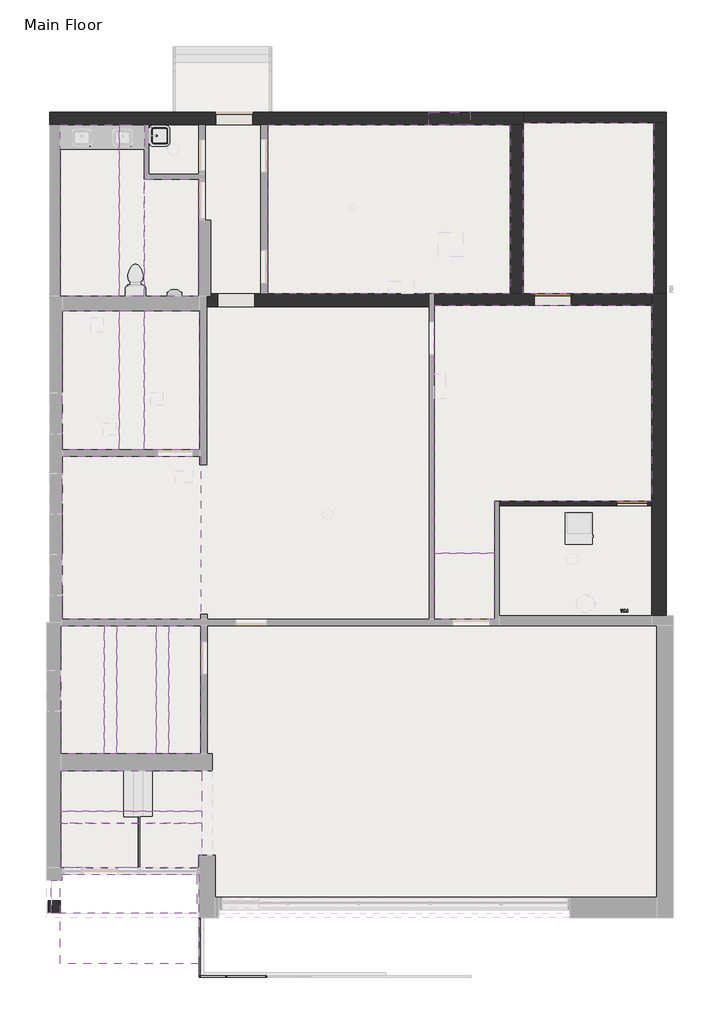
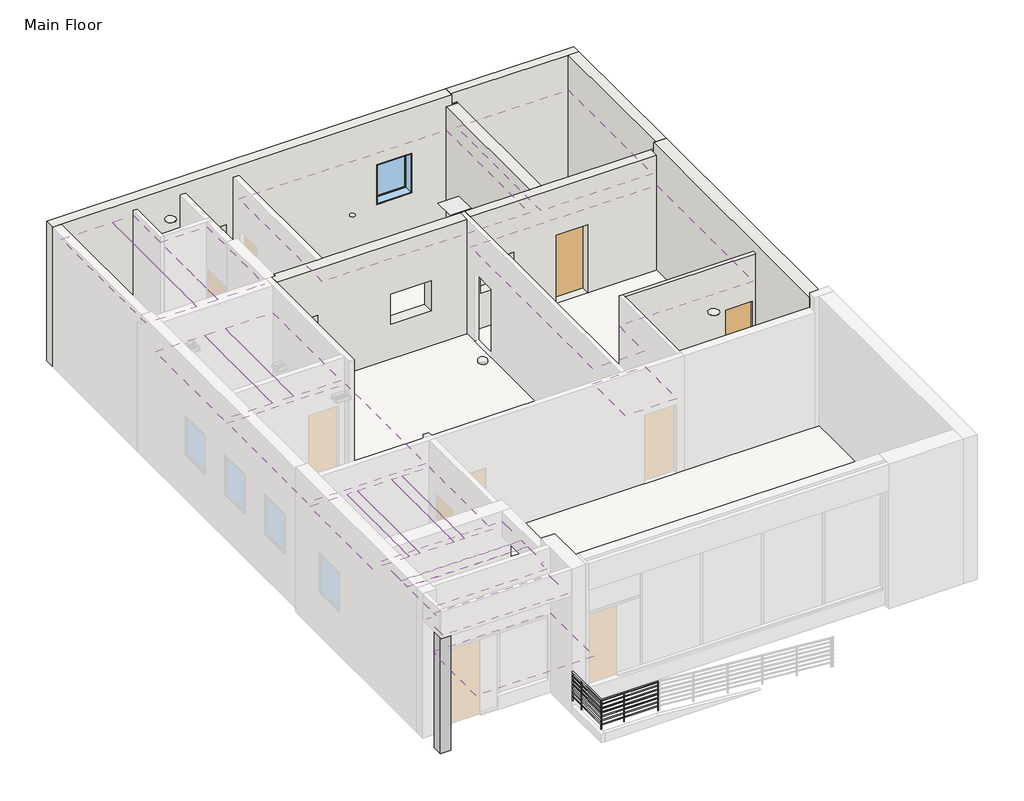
# One storey, part 2 of 4: 19 coverings, 8 walls, 3 slabs, 2 doors, 2 roofs, 1 column, 1 railing, 1 window.
"""IFC4 building model written with IfcOpenShell, lengths in millimetres."""

from ifc_helpers import new_model, si_unit, point, frame, frame_2d, origin, place, context, project, spatial, polyline, circle_curve, ellipse_curve, trimmed, segment, composite_curve, outline, extrude, faceted_brep, transform, mapped, element, save
from ifc_brep_helpers import plane_surface, cylinder_surface, advanced_brep
from components import rectangular_column_3d_family8_6da2cb89, door_5feb2371, door_12e38b37, window_879c5c3a

model = new_model("IFC4")

# Units and contexts
model_context = context("Model", 3, world=origin())
ifc_project = project(units=[si_unit("LENGTHUNIT", "METRE", prefix="MILLI")], contexts=[model_context])

# Site, building, storey
site = spatial("IfcSite", under=ifc_project)
building = spatial("IfcBuilding", under=site)
storey = spatial("IfcBuildingStorey", under=building, Name="Main Floor", Elevation=0.0)

# Column
placement = place(None, origin())
rectangular_column_3d_family8_shape = rectangular_column_3d_family8_6da2cb89(model_context)
element("IfcColumn", 1, ObjectType="Rectangular Column 3D : Family8", at=placement, inside=storey, context=model_context, shape_type="MappedRepresentation", body=[
    mapped(rectangular_column_3d_family8_shape, transform((-5720.4870003, -9593.6328667, 0.0), x_axis=(1.0, 0.0, 0.0), y_axis=(0.0, 1.0, 0.0), z_axis=(0.0, 0.0, 1.0))),
])

# Coverings
element("IfcCovering", 2, ObjectType="600 x 1200mm grid", at=placement, inside=storey, context=model_context, shape_type="SweptSolid", body=[
    extrude(outline(polyline([(-3345.5870003, 1861.7671333), (-3345.5870003, 5297.1171333), (-1967.6370003, 5297.1171333), (-1967.6370003, 1861.7671333), (-3345.5870003, 1861.7671333)]), holes=[polyline([(-3167.7870003, 2979.3671333), (-2901.0870003, 2979.3671333), (-2901.0870003, 3246.0671333), (-3167.7870003, 3246.0671333), (-3167.7870003, 2979.3671333)])]), frame((0.0, 0.0, 3149.6), z_axis=(0.0, 0.0, 1.0), x_axis=(1.0, 0.0, 0.0)), (0.0, 0.0, 1.0), 51.990625),
])
element("IfcCovering", 3, ObjectType="600 x 1200mm grid", at=placement, inside=storey, context=model_context, shape_type="SweptSolid", body=[
    extrude(outline(polyline([(-291.2370003, 9900.8671333), (5703.1629997, 9900.8671333), (5703.1629997, 5722.5671333), (-291.2370003, 5722.5671333), (-291.2370003, 6751.2671333), (-291.2370003, 9900.8671333)]), holes=[polyline([(3296.5129997, 6004.4302864), (2725.0129997, 6004.4302864), (2725.0129997, 5737.7302864), (3296.5129997, 5737.7302864), (3296.5129997, 6004.4302864)])]), frame((0.0, 0.0, 3251.2), z_axis=(0.0, 0.0, 1.0), x_axis=(1.0, 0.0, 0.0)), (0.0, 0.0, 1.0), 51.990625),
])
element("IfcCovering", 4, ObjectType="600 x 1200mm grid", at=placement, inside=storey, context=model_context, shape_type="SweptSolid", body=[
    extrude(outline(polyline([(9259.1629997, 9951.6671333), (9259.1629997, 5722.5671333), (6033.3629997, 5722.5671333), (6033.3629997, 9951.6671333), (9259.1629997, 9951.6671333)])), frame((0.0, 0.0, 3200.4), z_axis=(0.0, 0.0, 1.0), x_axis=(1.0, 0.0, 0.0)), (0.0, 0.0, 1.0), 51.990625),
])
element("IfcCovering", 5, ObjectType="600 x 1200mm grid", at=placement, inside=storey, context=model_context, shape_type="SweptSolid", body=[
    extrude(outline(polyline([(-3345.5870003, 8554.6671333), (-1999.3870003, 8554.6671333), (-1999.3870003, 5652.7171333), (-2236.2420003, 5652.7171333), (-3345.5870003, 5652.7171333), (-3345.5870003, 8554.6671333)])), frame((0.0, 0.0, 3810.0), z_axis=(0.0, 0.0, 1.0), x_axis=(1.0, 0.0, 0.0)), (0.0, 0.0, 1.0), 51.990625),
])
element("IfcCovering", 6, ObjectType="600 x 1200mm grid", at=placement, inside=storey, context=model_context, shape_type="SweptSolid", body=[
    extrude(outline(polyline([(-2735.9870003, -2494.3328667), (-2735.9870003, -5650.2828667), (-3040.7870003, -5650.2828667), (-3040.7870003, -2494.3328667), (-2735.9870003, -2494.3328667)])), frame((0.0, 0.0, 3149.6), z_axis=(0.0, 0.0, 1.0), x_axis=(1.0, 0.0, 0.0)), (0.0, 0.0, 1.0), 51.990625),
])
element("IfcCovering", 7, ObjectType="600 x 1200mm grid", at=placement, inside=storey, context=model_context, shape_type="SweptSolid", body=[
    extrude(outline(polyline([(-3955.1870003, 5652.7171333), (-3955.1870003, 9900.8671333), (-3345.5870003, 9900.8671333), (-3345.5870003, 5652.7171333), (-3955.1870003, 5652.7171333)])), frame((0.0, 0.0, 3810.0), z_axis=(0.0, 0.0, 1.0), x_axis=(1.0, 0.0, 0.0)), (0.0, 0.0, 1.0), 51.990625),
])
element("IfcCovering", 8, ObjectType="600 x 1200mm grid", at=placement, inside=storey, context=model_context, shape_type="SweptSolid", body=[
    extrude(outline(polyline([(-5422.0370003, 9900.8671333), (-3955.1870003, 9900.8671333), (-3955.1870003, 5652.7171333), (-4312.6920003, 5652.7171333), (-5422.0370003, 5652.7171333), (-5422.0370003, 9900.8671333)])), frame((0.0, 0.0, 3810.0), z_axis=(0.0, 0.0, 1.0), x_axis=(1.0, 0.0, 0.0)), (0.0, 0.0, 1.0), 51.990625),
])
element("IfcCovering", 9, ObjectType="600 x 1200mm grid", at=placement, inside=storey, context=model_context, shape_type="SweptSolid", body=[
    extrude(outline(polyline([(-3955.1870003, 1861.7671333), (-3955.1870003, 5297.1171333), (-3345.5870003, 5297.1171333), (-3345.5870003, 1861.7671333), (-3955.1870003, 1861.7671333)])), frame((0.0, 0.0, 3149.6), z_axis=(0.0, 0.0, 1.0), x_axis=(1.0, 0.0, 0.0)), (0.0, 0.0, 1.0), 51.990625),
])
element("IfcCovering", 10, ObjectType="600 x 1200mm grid", at=placement, inside=storey, context=model_context, shape_type="SweptSolid", body=[
    extrude(outline(polyline([(-3955.1870003, 1861.7671333), (-5371.2370003, 1861.7671333), (-5371.2370003, 5297.1171333), (-3955.1870003, 5297.1171333), (-3955.1870003, 1861.7671333)]), holes=[polyline([(-4640.9870003, 5100.2671333), (-4640.9870003, 4782.7671333), (-4374.2870003, 4782.7671333), (-4374.2870003, 5100.2671333), (-4640.9870003, 5100.2671333)]), polyline([(-4069.4870003, 2509.4671333), (-4336.1870003, 2509.4671333), (-4336.1870003, 2242.7671333), (-4069.4870003, 2242.7671333), (-4069.4870003, 2509.4671333)])]), frame((0.0, 0.0, 3149.6), z_axis=(0.0, 0.0, 1.0), x_axis=(1.0, 0.0, 0.0)), (0.0, 0.0, 1.0), 51.990625),
])
element("IfcCovering", 11, ObjectType="600 x 1200mm grid", at=placement, inside=storey, context=model_context, shape_type="SweptSolid", body=[
    extrude(outline(polyline([(-1948.5870003, -2494.3328667), (-1948.5870003, -5650.2828667), (-2735.9870003, -5650.2828667), (-2735.9870003, -2494.3328667), (-1948.5870003, -2494.3328667)])), frame((0.0, 0.0, 3149.6), z_axis=(0.0, 0.0, 1.0), x_axis=(1.0, 0.0, 0.0)), (0.0, 0.0, 1.0), 51.990625),
])
element("IfcCovering", 12, ObjectType="600 x 1200mm grid", at=placement, inside=storey, context=model_context, shape_type="SweptSolid", body=[
    extrude(outline(polyline([(-3040.7870003, -2494.3328667), (-3040.7870003, -5650.2828667), (-4024.8821003, -5650.2828667), (-4024.8821003, -2494.3328667), (-3040.7870003, -2494.3328667)])), frame((0.0, 0.0, 3149.6), z_axis=(0.0, 0.0, 1.0), x_axis=(1.0, 0.0, 0.0)), (0.0, 0.0, 1.0), 51.990625),
])
element("IfcCovering", 13, ObjectType="600 x 1200mm grid", at=placement, inside=storey, context=model_context, shape_type="SweptSolid", body=[
    extrude(outline(polyline([(-4329.6821003, -2494.3328667), (-4024.8821003, -2494.3328667), (-4024.8821003, -5650.2828667), (-4329.6821003, -5650.2828667), (-4329.6821003, -2494.3328667)])), frame((0.0, 0.0, 3149.6), z_axis=(0.0, 0.0, 1.0), x_axis=(1.0, 0.0, 0.0)), (0.0, 0.0, 1.0), 51.990625),
])
element("IfcCovering", 14, ObjectType="600 x 1200mm grid", at=placement, inside=storey, context=model_context, shape_type="SweptSolid", body=[
    extrude(outline(polyline([(-4329.6821003, -2494.3328667), (-4329.6821003, -5650.2828667), (-5402.8321003, -5650.2828667), (-5402.8321003, -2494.3328667), (-4329.6821003, -2494.3328667)])), frame((0.0, 0.0, 3149.6), z_axis=(0.0, 0.0, 1.0), x_axis=(1.0, 0.0, 0.0)), (0.0, 0.0, 1.0), 51.990625),
])
element("IfcCovering", 15, ObjectType="600 x 600mm grid", at=placement, inside=storey, context=model_context, shape_type="SweptSolid", body=[
    extrude(outline(polyline([(9208.3629997, 585.4171333), (5322.1629997, 585.4171333), (5322.1629997, -703.6328667), (3823.5629997, -703.6328667), (3823.5629997, 5430.4671333), (9208.3629997, 5430.4671333), (9208.3629997, 585.4171333)]), holes=[polyline([(3842.6129997, 3715.9671333), (3842.6129997, 3144.4671333), (4083.9129997, 3144.4671333), (4083.9129997, 3715.9671333), (3842.6129997, 3715.9671333)])]), frame((0.0, 0.0, 3048.0), z_axis=(0.0, 0.0, 1.0), x_axis=(1.0, 0.0, 0.0)), (0.0, 0.0, 1.0), 51.990625),
])
element("IfcCovering", 16, ObjectType="600 x 600mm grid", at=placement, inside=storey, context=model_context, shape_type="SweptSolid", body=[
    extrude(outline(polyline([(-1946.7727003, 1696.6671333), (-1946.7727003, -2329.2328667), (-5371.2370003, -2329.2328667), (-5371.2370003, 1696.6671333), (-1946.7727003, 1696.6671333)]), holes=[polyline([(-2558.1870003, 1328.3671333), (-2558.1870003, 1061.6671333), (-2164.4870003, 1061.6671333), (-2164.4870003, 1328.3671333), (-2558.1870003, 1328.3671333)])]), frame((0.0, 0.0, 3149.6), z_axis=(0.0, 0.0, 1.0), x_axis=(1.0, 0.0, 0.0)), (0.0, 0.0, 1.0), 51.990625),
])
element("IfcCovering", 17, ObjectType="600 x 600mm grid", at=placement, inside=storey, context=model_context, shape_type="SweptSolid", body=[
    extrude(outline(polyline([(-1916.8370003, -7377.4828667), (-1916.8370003, -8164.8828667), (-1993.0370003, -8164.8828667), (-1993.0370003, -8476.0328667), (-5371.2370003, -8476.0328667), (-5402.8321003, -8476.0328667), (-5402.8321003, -7377.4828667), (-1916.8370003, -7377.4828667)])), frame((0.0, 0.0, 3657.6), z_axis=(0.0, 0.0, 1.0), x_axis=(1.0, 0.0, 0.0)), (0.0, 0.0, 1.0), 51.990625),
])
element("IfcCovering", 18, ObjectType="600 x 600mm grid", at=placement, inside=storey, context=model_context, shape_type="SweptSolid", body=[
    extrude(outline(polyline([(5322.1629997, -703.6328667), (5322.1629997, -2329.2328667), (3823.5629997, -2329.2328667), (3823.5629997, -703.6328667), (5322.1629997, -703.6328667)])), frame((0.0, 0.0, 2590.8), z_axis=(0.0, 0.0, 1.0), x_axis=(1.0, 0.0, 0.0)), (0.0, 0.0, 1.0), 51.990625),
])
element("IfcCovering", 19, ObjectType="600 x 600mm grid", at=placement, inside=storey, context=model_context, shape_type="SweptSolid", body=[
    extrude(outline(polyline([(-1916.8370003, -7072.6828667), (-5402.8321003, -7072.6828667), (-5402.8321003, -6082.0828667), (-1916.8370003, -6082.0828667), (-1916.8370003, -7072.6828667)])), frame((0.0, 0.0, 3657.6), z_axis=(0.0, 0.0, 1.0), x_axis=(1.0, 0.0, 0.0)), (0.0, 0.0, 1.0), 51.990625),
])
element("IfcCovering", 20, ObjectType="600 x 600mm grid", at=placement, inside=storey, context=model_context, shape_type="SweptSolid", body=[
    extrude(outline(polyline([(-1916.8370003, -7072.6828667), (-1916.8370003, -7377.4828667), (-5371.2370003, -7377.4828667), (-5402.8321003, -7377.4828667), (-5402.8321003, -7072.6828667), (-1916.8370003, -7072.6828667)])), frame((0.0, 0.0, 3657.6), z_axis=(0.0, 0.0, 1.0), x_axis=(1.0, 0.0, 0.0)), (0.0, 0.0, 1.0), 51.990625),
])

# Doors
door_shape = door_5feb2371(model_context)
element("IfcDoor", 21, ObjectType="Planitar - Single Door_Flush Panel : 2'-6\" x 6'-8\"", at=placement, inside=storey, context=model_context, shape_type="MappedRepresentation", body=[
    mapped(door_shape, transform((8725.7629997, 528.2671333, 457.2), x_axis=(1.0, 0.0, 0.0), y_axis=(0.0, 1.0, 0.0), z_axis=(0.0, 0.0, 1.0))),
])
door_2_shape = door_12e38b37(model_context)
element("IfcDoor", 22, ObjectType="Planitar - Single Door_Flush Panel : 3'-0\" x 6'-8\"", at=placement, inside=storey, context=model_context, shape_type="MappedRepresentation", body=[
    mapped(door_2_shape, transform((6757.2629997, 5576.5171333, 457.2), x_axis=(-1.0, 0.0, 0.0), y_axis=(0.0, -1.0, 0.0), z_axis=(0.0, 0.0, 1.0))),
])

# Railing
element("IfcRailing", 23, ObjectType="900mm Pipe", at=placement, inside=storey, context=model_context, shape_type="SolidModel", body=[
    advanced_brep(
    [(-316.6370003, -11142.0828667, 1275.8166667), (-316.6370003, -11182.0828667, 1275.8166667), (-1947.6370003, -11142.0828667, 1275.8166667), (-1987.6370003, -11182.0828667, 1275.8166667), (-1947.6370003, -9714.2828667, 1275.8166667), (-1987.6370003, -9714.2828667, 1275.8166667)],
    [
        (0, 1, circle_curve(frame((-316.6370003, -11162.0828667, 1275.8166667), z_axis=(1.0, 0.0, 0.0), x_axis=(0.0, -1.0, 0.0)), 20.0)),
        (1, 0, circle_curve(frame((-316.6370003, -11162.0828667, 1275.8166667), z_axis=(1.0, 0.0, 0.0), x_axis=(0.0, -1.0, 0.0)), 20.0)),
        (0, 2),
        (2, 3, ellipse_curve(frame((-1967.6370003, -11162.0828667, 1275.8166667), z_axis=(0.7071067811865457, -0.7071067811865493, 0.0), x_axis=(0.7071067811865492, 0.7071067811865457, 0.0)), 28.2842712, 20.0)),
        (3, 1),
        (3, 2, ellipse_curve(frame((-1967.6370003, -11162.0828667, 1275.8166667), z_axis=(0.7071067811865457, -0.7071067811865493, 0.0), x_axis=(0.7071067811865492, 0.7071067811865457, 0.0)), 28.2842712, 20.0)),
        (4, 5, circle_curve(frame((-1967.6370003, -9714.2828667, 1275.8166667), z_axis=(0.0, 1.0, 0.0), x_axis=(-1.0, 0.0, 0.0)), 20.0)),
        (5, 4, circle_curve(frame((-1967.6370003, -9714.2828667, 1275.8166667), z_axis=(0.0, 1.0, 0.0), x_axis=(-1.0, 0.0, 0.0)), 20.0)),
        (2, 4),
        (5, 3),
    ],
    [
        plane_surface(frame((-316.6370003, -11162.0828667, 1295.8166667), z_axis=(1.0, 0.0, 0.0), x_axis=(0.0, -1.0, 0.0))),
        cylinder_surface(frame((-316.6370003, -11162.0828667, 1275.8166667), z_axis=(1.0, 0.0, 0.0), x_axis=(0.0, -1.0, 0.0)), 20.0),
        plane_surface(frame((-1967.6370003, -9714.2828667, 1295.8166667), z_axis=(0.0, 1.0, 0.0), x_axis=(0.0, 0.0, 1.0))),
        cylinder_surface(frame((-1967.6370003, -11162.0828667, 1275.8166667), z_axis=(0.0, -1.0, 0.0), x_axis=(-1.0, 0.0, 0.0)), 20.0),
    ],
    [
        (0, [[1, 2]]),
        (1, [[-1, 3, 4, 5]]),
        (1, [[-2, -5, 6, -3]]),
        (2, [[7, 8]]),
        (3, [[-4, 9, -8, 10]]),
        (3, [[-6, -10, -7, -9]]),
    ],
),
    advanced_brep(
    [(-316.6370003, -11177.0828667, 1155.8166667), (-316.6370003, -11147.0828667, 1155.8166667), (-1982.6370003, -11177.0828667, 1155.8166667), (-1952.6370003, -11147.0828667, 1155.8166667), (-1982.6370003, -9714.2828667, 1155.8166667), (-1952.6370003, -9714.2828667, 1155.8166667)],
    [
        (0, 1, circle_curve(frame((-316.6370003, -11162.0828667, 1155.8166667), z_axis=(1.0, 0.0, 0.0), x_axis=(0.0, 1.0, 0.0)), 15.0)),
        (1, 0, circle_curve(frame((-316.6370003, -11162.0828667, 1155.8166667), z_axis=(1.0, 0.0, 0.0), x_axis=(0.0, 1.0, 0.0)), 15.0)),
        (0, 2),
        (2, 3, ellipse_curve(frame((-1967.6370003, -11162.0828667, 1155.8166667), z_axis=(0.7071067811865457, -0.7071067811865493, 0.0), x_axis=(0.7071067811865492, 0.7071067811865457, 0.0)), 21.2132034, 15.0)),
        (3, 1),
        (3, 2, ellipse_curve(frame((-1967.6370003, -11162.0828667, 1155.8166667), z_axis=(0.7071067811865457, -0.7071067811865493, 0.0), x_axis=(0.7071067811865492, 0.7071067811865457, 0.0)), 21.2132034, 15.0)),
        (4, 5, circle_curve(frame((-1967.6370003, -9714.2828667, 1155.8166667), z_axis=(0.0, 1.0, 0.0), x_axis=(1.0, 0.0, 0.0)), 15.0)),
        (5, 4, circle_curve(frame((-1967.6370003, -9714.2828667, 1155.8166667), z_axis=(0.0, 1.0, 0.0), x_axis=(1.0, 0.0, 0.0)), 15.0)),
        (2, 4),
        (5, 3),
    ],
    [
        plane_surface(frame((-316.6370003, -11162.0828667, 1170.8166667), z_axis=(1.0, 0.0, 0.0), x_axis=(0.0, -1.0, 0.0))),
        cylinder_surface(frame((-316.6370003, -11162.0828667, 1155.8166667), z_axis=(1.0, 0.0, 0.0), x_axis=(0.0, 1.0, 0.0)), 15.0),
        plane_surface(frame((-1967.6370003, -9714.2828667, 1170.8166667), z_axis=(0.0, 1.0, 0.0), x_axis=(0.0, 0.0, 1.0))),
        cylinder_surface(frame((-1967.6370003, -11162.0828667, 1155.8166667), z_axis=(0.0, -1.0, 0.0), x_axis=(1.0, 0.0, 0.0)), 15.0),
    ],
    [
        (0, [[1, 2]]),
        (1, [[-1, 3, 4, 5]]),
        (1, [[-2, -5, 6, -3]]),
        (2, [[7, 8]]),
        (3, [[-4, 9, -8, 10]]),
        (3, [[-6, -10, -7, -9]]),
    ],
),
    advanced_brep(
    [(-316.6370003, -11177.0828667, 1030.8166667), (-316.6370003, -11147.0828667, 1030.8166667), (-1982.6370003, -11177.0828667, 1030.8166667), (-1952.6370003, -11147.0828667, 1030.8166667), (-1982.6370003, -9714.2828667, 1030.8166667), (-1952.6370003, -9714.2828667, 1030.8166667)],
    [
        (0, 1, circle_curve(frame((-316.6370003, -11162.0828667, 1030.8166667), z_axis=(1.0, 0.0, 0.0), x_axis=(0.0, 1.0, 0.0)), 15.0)),
        (1, 0, circle_curve(frame((-316.6370003, -11162.0828667, 1030.8166667), z_axis=(1.0, 0.0, 0.0), x_axis=(0.0, 1.0, 0.0)), 15.0)),
        (0, 2),
        (2, 3, ellipse_curve(frame((-1967.6370003, -11162.0828667, 1030.8166667), z_axis=(0.7071067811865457, -0.7071067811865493, 0.0), x_axis=(0.7071067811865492, 0.7071067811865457, 0.0)), 21.2132034, 15.0)),
        (3, 1),
        (3, 2, ellipse_curve(frame((-1967.6370003, -11162.0828667, 1030.8166667), z_axis=(0.7071067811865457, -0.7071067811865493, 0.0), x_axis=(0.7071067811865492, 0.7071067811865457, 0.0)), 21.2132034, 15.0)),
        (4, 5, circle_curve(frame((-1967.6370003, -9714.2828667, 1030.8166667), z_axis=(0.0, 1.0, 0.0), x_axis=(1.0, 0.0, 0.0)), 15.0)),
        (5, 4, circle_curve(frame((-1967.6370003, -9714.2828667, 1030.8166667), z_axis=(0.0, 1.0, 0.0), x_axis=(1.0, 0.0, 0.0)), 15.0)),
        (2, 4),
        (5, 3),
    ],
    [
        plane_surface(frame((-316.6370003, -11162.0828667, 1045.8166667), z_axis=(1.0, 0.0, 0.0), x_axis=(0.0, -1.0, 0.0))),
        cylinder_surface(frame((-316.6370003, -11162.0828667, 1030.8166667), z_axis=(1.0, 0.0, 0.0), x_axis=(0.0, 1.0, 0.0)), 15.0),
        plane_surface(frame((-1967.6370003, -9714.2828667, 1045.8166667), z_axis=(0.0, 1.0, 0.0), x_axis=(0.0, 0.0, 1.0))),
        cylinder_surface(frame((-1967.6370003, -11162.0828667, 1030.8166667), z_axis=(0.0, -1.0, 0.0), x_axis=(1.0, 0.0, 0.0)), 15.0),
    ],
    [
        (0, [[1, 2]]),
        (1, [[-1, 3, 4, 5]]),
        (1, [[-2, -5, 6, -3]]),
        (2, [[7, 8]]),
        (3, [[-4, 9, -8, 10]]),
        (3, [[-6, -10, -7, -9]]),
    ],
),
    advanced_brep(
    [(-316.6370003, -11177.0828667, 905.8166667), (-316.6370003, -11147.0828667, 905.8166667), (-1982.6370003, -11177.0828667, 905.8166667), (-1952.6370003, -11147.0828667, 905.8166667), (-1982.6370003, -9714.2828667, 905.8166667), (-1952.6370003, -9714.2828667, 905.8166667)],
    [
        (0, 1, circle_curve(frame((-316.6370003, -11162.0828667, 905.8166667), z_axis=(1.0, 0.0, 0.0), x_axis=(0.0, 1.0, 0.0)), 15.0)),
        (1, 0, circle_curve(frame((-316.6370003, -11162.0828667, 905.8166667), z_axis=(1.0, 0.0, 0.0), x_axis=(0.0, 1.0, 0.0)), 15.0)),
        (0, 2),
        (2, 3, ellipse_curve(frame((-1967.6370003, -11162.0828667, 905.8166667), z_axis=(0.7071067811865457, -0.7071067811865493, 0.0), x_axis=(0.7071067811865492, 0.7071067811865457, 0.0)), 21.2132034, 15.0)),
        (3, 1),
        (3, 2, ellipse_curve(frame((-1967.6370003, -11162.0828667, 905.8166667), z_axis=(0.7071067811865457, -0.7071067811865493, 0.0), x_axis=(0.7071067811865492, 0.7071067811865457, 0.0)), 21.2132034, 15.0)),
        (4, 5, circle_curve(frame((-1967.6370003, -9714.2828667, 905.8166667), z_axis=(0.0, 1.0, 0.0), x_axis=(1.0, 0.0, 0.0)), 15.0)),
        (5, 4, circle_curve(frame((-1967.6370003, -9714.2828667, 905.8166667), z_axis=(0.0, 1.0, 0.0), x_axis=(1.0, 0.0, 0.0)), 15.0)),
        (2, 4),
        (5, 3),
    ],
    [
        plane_surface(frame((-316.6370003, -11162.0828667, 920.8166667), z_axis=(1.0, 0.0, 0.0), x_axis=(0.0, -1.0, 0.0))),
        cylinder_surface(frame((-316.6370003, -11162.0828667, 905.8166667), z_axis=(1.0, 0.0, 0.0), x_axis=(0.0, 1.0, 0.0)), 15.0),
        plane_surface(frame((-1967.6370003, -9714.2828667, 920.8166667), z_axis=(0.0, 1.0, 0.0), x_axis=(0.0, 0.0, 1.0))),
        cylinder_surface(frame((-1967.6370003, -11162.0828667, 905.8166667), z_axis=(0.0, -1.0, 0.0), x_axis=(1.0, 0.0, 0.0)), 15.0),
    ],
    [
        (0, [[1, 2]]),
        (1, [[-1, 3, 4, 5]]),
        (1, [[-2, -5, 6, -3]]),
        (2, [[7, 8]]),
        (3, [[-4, 9, -8, 10]]),
        (3, [[-6, -10, -7, -9]]),
    ],
),
    advanced_brep(
    [(-316.6370003, -11177.0828667, 780.8166667), (-316.6370003, -11147.0828667, 780.8166667), (-1982.6370003, -11177.0828667, 780.8166667), (-1952.6370003, -11147.0828667, 780.8166667), (-1982.6370003, -9714.2828667, 780.8166667), (-1952.6370003, -9714.2828667, 780.8166667)],
    [
        (0, 1, circle_curve(frame((-316.6370003, -11162.0828667, 780.8166667), z_axis=(1.0, 0.0, 0.0), x_axis=(0.0, 1.0, 0.0)), 15.0)),
        (1, 0, circle_curve(frame((-316.6370003, -11162.0828667, 780.8166667), z_axis=(1.0, 0.0, 0.0), x_axis=(0.0, 1.0, 0.0)), 15.0)),
        (0, 2),
        (2, 3, ellipse_curve(frame((-1967.6370003, -11162.0828667, 780.8166667), z_axis=(0.7071067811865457, -0.7071067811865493, 0.0), x_axis=(0.7071067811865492, 0.7071067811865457, 0.0)), 21.2132034, 15.0)),
        (3, 1),
        (3, 2, ellipse_curve(frame((-1967.6370003, -11162.0828667, 780.8166667), z_axis=(0.7071067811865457, -0.7071067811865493, 0.0), x_axis=(0.7071067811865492, 0.7071067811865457, 0.0)), 21.2132034, 15.0)),
        (4, 5, circle_curve(frame((-1967.6370003, -9714.2828667, 780.8166667), z_axis=(0.0, 1.0, 0.0), x_axis=(1.0, 0.0, 0.0)), 15.0)),
        (5, 4, circle_curve(frame((-1967.6370003, -9714.2828667, 780.8166667), z_axis=(0.0, 1.0, 0.0), x_axis=(1.0, 0.0, 0.0)), 15.0)),
        (2, 4),
        (5, 3),
    ],
    [
        plane_surface(frame((-316.6370003, -11162.0828667, 795.8166667), z_axis=(1.0, 0.0, 0.0), x_axis=(0.0, -1.0, 0.0))),
        cylinder_surface(frame((-316.6370003, -11162.0828667, 780.8166667), z_axis=(1.0, 0.0, 0.0), x_axis=(0.0, 1.0, 0.0)), 15.0),
        plane_surface(frame((-1967.6370003, -9714.2828667, 795.8166667), z_axis=(0.0, 1.0, 0.0), x_axis=(0.0, 0.0, 1.0))),
        cylinder_surface(frame((-1967.6370003, -11162.0828667, 780.8166667), z_axis=(0.0, -1.0, 0.0), x_axis=(1.0, 0.0, 0.0)), 15.0),
    ],
    [
        (0, [[1, 2]]),
        (1, [[-1, 3, 4, 5]]),
        (1, [[-2, -5, 6, -3]]),
        (2, [[7, 8]]),
        (3, [[-4, 9, -8, 10]]),
        (3, [[-6, -10, -7, -9]]),
    ],
),
    advanced_brep(
    [(-316.6370003, -11177.0828667, 655.8166667), (-316.6370003, -11147.0828667, 655.8166667), (-1982.6370003, -11177.0828667, 655.8166667), (-1952.6370003, -11147.0828667, 655.8166667), (-1982.6370003, -9714.2828667, 655.8166667), (-1952.6370003, -9714.2828667, 655.8166667)],
    [
        (0, 1, circle_curve(frame((-316.6370003, -11162.0828667, 655.8166667), z_axis=(1.0, 0.0, 0.0), x_axis=(0.0, 1.0, 0.0)), 15.0)),
        (1, 0, circle_curve(frame((-316.6370003, -11162.0828667, 655.8166667), z_axis=(1.0, 0.0, 0.0), x_axis=(0.0, 1.0, 0.0)), 15.0)),
        (0, 2),
        (2, 3, ellipse_curve(frame((-1967.6370003, -11162.0828667, 655.8166667), z_axis=(0.7071067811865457, -0.7071067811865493, 0.0), x_axis=(0.7071067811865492, 0.7071067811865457, 0.0)), 21.2132034, 15.0)),
        (3, 1),
        (3, 2, ellipse_curve(frame((-1967.6370003, -11162.0828667, 655.8166667), z_axis=(0.7071067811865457, -0.7071067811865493, 0.0), x_axis=(0.7071067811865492, 0.7071067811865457, 0.0)), 21.2132034, 15.0)),
        (4, 5, circle_curve(frame((-1967.6370003, -9714.2828667, 655.8166667), z_axis=(0.0, 1.0, 0.0), x_axis=(1.0, 0.0, 0.0)), 15.0)),
        (5, 4, circle_curve(frame((-1967.6370003, -9714.2828667, 655.8166667), z_axis=(0.0, 1.0, 0.0), x_axis=(1.0, 0.0, 0.0)), 15.0)),
        (2, 4),
        (5, 3),
    ],
    [
        plane_surface(frame((-316.6370003, -11162.0828667, 670.8166667), z_axis=(1.0, 0.0, 0.0), x_axis=(0.0, -1.0, 0.0))),
        cylinder_surface(frame((-316.6370003, -11162.0828667, 655.8166667), z_axis=(1.0, 0.0, 0.0), x_axis=(0.0, 1.0, 0.0)), 15.0),
        plane_surface(frame((-1967.6370003, -9714.2828667, 670.8166667), z_axis=(0.0, 1.0, 0.0), x_axis=(0.0, 0.0, 1.0))),
        cylinder_surface(frame((-1967.6370003, -11162.0828667, 655.8166667), z_axis=(0.0, -1.0, 0.0), x_axis=(1.0, 0.0, 0.0)), 15.0),
    ],
    [
        (0, [[1, 2]]),
        (1, [[-1, 3, 4, 5]]),
        (1, [[-2, -5, 6, -3]]),
        (2, [[7, 8]]),
        (3, [[-4, 9, -8, 10]]),
        (3, [[-6, -10, -7, -9]]),
    ],
),
    advanced_brep(
    [(-316.6370003, -11177.0828667, 530.8166667), (-316.6370003, -11147.0828667, 530.8166667), (-1982.6370003, -11177.0828667, 530.8166667), (-1952.6370003, -11147.0828667, 530.8166667), (-1982.6370003, -9714.2828667, 530.8166667), (-1952.6370003, -9714.2828667, 530.8166667)],
    [
        (0, 1, circle_curve(frame((-316.6370003, -11162.0828667, 530.8166667), z_axis=(1.0, 0.0, 0.0), x_axis=(0.0, 1.0, 0.0)), 15.0)),
        (1, 0, circle_curve(frame((-316.6370003, -11162.0828667, 530.8166667), z_axis=(1.0, 0.0, 0.0), x_axis=(0.0, 1.0, 0.0)), 15.0)),
        (0, 2),
        (2, 3, ellipse_curve(frame((-1967.6370003, -11162.0828667, 530.8166667), z_axis=(0.7071067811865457, -0.7071067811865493, 0.0), x_axis=(0.7071067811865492, 0.7071067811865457, 0.0)), 21.2132034, 15.0)),
        (3, 1),
        (3, 2, ellipse_curve(frame((-1967.6370003, -11162.0828667, 530.8166667), z_axis=(0.7071067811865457, -0.7071067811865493, 0.0), x_axis=(0.7071067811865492, 0.7071067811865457, 0.0)), 21.2132034, 15.0)),
        (4, 5, circle_curve(frame((-1967.6370003, -9714.2828667, 530.8166667), z_axis=(0.0, 1.0, 0.0), x_axis=(1.0, 0.0, 0.0)), 15.0)),
        (5, 4, circle_curve(frame((-1967.6370003, -9714.2828667, 530.8166667), z_axis=(0.0, 1.0, 0.0), x_axis=(1.0, 0.0, 0.0)), 15.0)),
        (2, 4),
        (5, 3),
    ],
    [
        plane_surface(frame((-316.6370003, -11162.0828667, 545.8166667), z_axis=(1.0, 0.0, 0.0), x_axis=(0.0, -1.0, 0.0))),
        cylinder_surface(frame((-316.6370003, -11162.0828667, 530.8166667), z_axis=(1.0, 0.0, 0.0), x_axis=(0.0, 1.0, 0.0)), 15.0),
        plane_surface(frame((-1967.6370003, -9714.2828667, 545.8166667), z_axis=(0.0, 1.0, 0.0), x_axis=(0.0, 0.0, 1.0))),
        cylinder_surface(frame((-1967.6370003, -11162.0828667, 530.8166667), z_axis=(0.0, -1.0, 0.0), x_axis=(1.0, 0.0, 0.0)), 15.0),
    ],
    [
        (0, [[1, 2]]),
        (1, [[-1, 3, 4, 5]]),
        (1, [[-2, -5, 6, -3]]),
        (2, [[7, 8]]),
        (3, [[-4, 9, -8, 10]]),
        (3, [[-6, -10, -7, -9]]),
    ],
),
    extrude(outline(composite_curve([segment(trimmed(circle_curve(frame_2d((-1967.6370003, -10162.0828667)), 12.5), [point((-1980.1370003, -10162.0828667))], [point((-1955.1370003, -10162.0828667))], False, "CARTESIAN"), True, "CONTINUOUS"), segment(trimmed(circle_curve(frame_2d((-1967.6370003, -10162.0828667)), 12.5), [point((-1955.1370003, -10162.0828667))], [point((-1980.1370003, -10162.0828667))], False, "CARTESIAN"), True, "CONTINUOUS")], self_intersect=False)), frame((0.0, 0.0, 395.8166667), z_axis=(0.0, 0.0, 1.0), x_axis=(1.0, 0.0, 0.0)), (0.0, 0.0, 1.0), 860.0),
    extrude(outline(composite_curve([segment(trimmed(circle_curve(frame_2d((-1316.6370003, -11162.0828667)), 12.5), [point((-1316.6370003, -11174.5828667))], [point((-1316.6370003, -11149.5828667))], False, "CARTESIAN"), True, "CONTINUOUS"), segment(trimmed(circle_curve(frame_2d((-1316.6370003, -11162.0828667)), 12.5), [point((-1316.6370003, -11149.5828667))], [point((-1316.6370003, -11174.5828667))], False, "CARTESIAN"), True, "CONTINUOUS")], self_intersect=False)), frame((0.0, 0.0, 395.8166667), z_axis=(0.0, 0.0, 1.0), x_axis=(1.0, 0.0, 0.0)), (0.0, 0.0, 1.0), 860.0),
    extrude(outline(composite_curve([segment(trimmed(circle_curve(frame_2d((-1967.6370003, -11162.0828667)), 12.5), [point((-1967.6370003, -11174.5828667))], [point((-1967.6370003, -11149.5828667))], False, "CARTESIAN"), True, "CONTINUOUS"), segment(trimmed(circle_curve(frame_2d((-1967.6370003, -11162.0828667)), 12.5), [point((-1967.6370003, -11149.5828667))], [point((-1967.6370003, -11174.5828667))], False, "CARTESIAN"), True, "CONTINUOUS")], self_intersect=False)), frame((0.0, 0.0, 395.8166667), z_axis=(0.0, 0.0, 1.0), x_axis=(1.0, 0.0, 0.0)), (0.0, 0.0, 1.0), 860.0),
    extrude(outline(composite_curve([segment(trimmed(circle_curve(frame_2d((-1967.6370003, -9726.7828667)), 12.5), [point((-1980.1370003, -9726.7828667))], [point((-1955.1370003, -9726.7828667))], False, "CARTESIAN"), True, "CONTINUOUS"), segment(trimmed(circle_curve(frame_2d((-1967.6370003, -9726.7828667)), 12.5), [point((-1955.1370003, -9726.7828667))], [point((-1980.1370003, -9726.7828667))], False, "CARTESIAN"), True, "CONTINUOUS")], self_intersect=False)), frame((0.0, 0.0, 395.8166667), z_axis=(0.0, 0.0, 1.0), x_axis=(1.0, 0.0, 0.0)), (0.0, 0.0, 1.0), 860.0),
    extrude(outline(composite_curve([segment(trimmed(circle_curve(frame_2d((-329.1370003, -11162.0828667)), 12.5), [point((-329.1370003, -11174.5828667))], [point((-329.1370003, -11149.5828667))], False, "CARTESIAN"), True, "CONTINUOUS"), segment(trimmed(circle_curve(frame_2d((-329.1370003, -11162.0828667)), 12.5), [point((-329.1370003, -11149.5828667))], [point((-329.1370003, -11174.5828667))], False, "CARTESIAN"), True, "CONTINUOUS")], self_intersect=False)), frame((0.0, 0.0, 395.8166667), z_axis=(0.0, 0.0, 1.0), x_axis=(1.0, 0.0, 0.0)), (0.0, 0.0, 1.0), 860.0),
])

# Roofs
element("IfcRoof", 24, ObjectType="Wood Rafter 184mm - Asphalt Shingles", at=placement, inside=storey, context=model_context, shape_type="SweptSolid", body=[
    extrude(outline(polyline([(-5371.2370003, -8641.1328667), (-1993.0370003, -8641.1328667), (-1993.0370003, -10850.9328667), (-5415.6870003, -10850.9328667), (-5415.6870003, -8780.8328667), (-5371.2370003, -8780.8328667), (-5371.2370003, -8641.1328667)])), frame((0.0, 0.0, 2438.4), z_axis=(0.0, 0.0, 1.0), x_axis=(1.0, 0.0, 0.0)), (0.0, 0.0, 1.0), 165.1),
])
element("IfcRoof", 25, ObjectType="Wood Rafter 184mm - Asphalt Shingles", at=placement, inside=storey, context=model_context, shape_type="SweptSolid", body=[
    extrude(outline(polyline([(-5371.2370003, -8641.1328667), (-2043.8370003, -8641.1328667), (-2043.8370003, -9599.9828667), (-5644.1321003, -9599.9828667), (-5644.1321003, -8780.8328667), (-5371.2370003, -8780.8328667), (-5371.2370003, -8641.1328667)])), frame((0.0, 0.0, 3606.8), z_axis=(0.0, 0.0, 1.0), x_axis=(1.0, 0.0, 0.0)), (0.0, 0.0, 1.0), 165.1),
])

# Slabs
element("IfcSlab", 26, ObjectType="Ledge - 2\"", at=placement, inside=storey, context=model_context, shape_type="SweptSolid", body=[
    extrude(outline(polyline([(-1662.8370003, -6082.0828667), (-1662.8370003, -8476.0328667), (-5402.8321003, -8476.0328667), (-5402.8321003, -6082.0828667), (-1662.8370003, -6082.0828667)])), frame((0.0, 0.0, -50.8), z_axis=(0.0, 0.0, 1.0), x_axis=(1.0, 0.0, 0.0)), (0.0, 0.0, 1.0), 50.8),
])
element("IfcSlab", 27, ObjectType="Ledge - 2\"", at=placement, inside=storey, context=model_context, shape_type="SweptSolid", body=[
    extrude(outline(polyline([(-1586.6370003, -8476.0328667), (-3491.6370003, -8476.0328667), (-3491.6370003, -7211.1128667), (-3131.0760628, -7211.1128667), (-3131.0760628, -6082.0828667), (-1662.8370003, -6082.0828667), (-1662.8370003, -5650.2828667), (-5402.8321003, -5650.2828667), (-5402.8321003, -2494.3328667), (-5365.0419003, -2494.3328667), (-5365.0419003, 5652.7171333), (-5422.0370003, 5652.7171333), (-5422.0370003, 9900.8671333), (6033.3629997, 9900.8671333), (6033.3629997, 9951.6671333), (9259.1629997, 9951.6671333), (9259.1629997, 5722.5671333), (9208.3629997, 5722.5671333), (9208.3629997, -2494.3328667), (9333.0001997, -2494.3328667), (9333.0001997, -9206.2828667), (-1586.6370003, -9206.2828667), (-1586.6370003, -8476.0328667)])), frame((0.0, 0.0, 406.4), z_axis=(0.0, 0.0, 1.0), x_axis=(1.0, 0.0, 0.0)), (0.0, 0.0, 1.0), 50.8),
])
element("IfcSlab", 28, ObjectType="Ledge - 2\"", at=placement, inside=storey, context=model_context, shape_type="SweptSolid", body=[
    extrude(outline(polyline([(-5422.0370003, 9900.8671333), (6033.3629997, 9900.8671333), (6033.3629997, 9951.6671333), (9259.1629997, 9951.6671333), (9259.1629997, 5722.5671333), (9208.3629997, 5722.5671333), (9208.3629997, -2494.3328667), (9333.0001997, -2494.3328667), (9333.0001997, -9206.2828667), (-1586.6370003, -9206.2828667), (-1586.6370003, -8164.8828667), (-1662.8370003, -8164.8828667), (-1662.8370003, -5650.2828667), (-5402.8321003, -5650.2828667), (-5402.8321003, -2494.3328667), (-5371.2370003, -2494.3328667), (-5371.2370003, 5652.7171333), (-5422.0370003, 5652.7171333), (-5422.0370003, 9900.8671333)])), frame((0.0, 0.0, -50.8), z_axis=(0.0, 0.0, 1.0), x_axis=(1.0, 0.0, 0.0)), (0.0, 0.0, 1.0), 50.8),
])

# Walls
element("IfcWall", 29, ObjectType="Planitar - Generic 1' - 0\"", at=placement, inside=storey, context=model_context, shape_type="Brep", body=[
    faceted_brep([(-5676.0370003, 9900.8671333, 0.0), (-5422.0370003, 9900.8671333, 0.0), (-3345.5870003, 9900.8671333, 0.0), (-3231.2870003, 9900.8671333, 0.0), (-1999.3870003, 9900.8671333, 0.0), (-1834.2870003, 9900.8671333, 0.0), (-456.3370003, 9900.8671333, 0.0), (-291.2370003, 9900.8671333, 0.0), (5703.1629997, 9900.8671333, 0.0), (6033.3629997, 9900.8671333, 0.0), (6033.3629997, 9900.8671333, 3962.4), (5868.2629997, 9900.8671333, 3962.4), (5868.2629997, 9900.8671333, 4267.2), (-5422.0370003, 9900.8671333, 4267.2), (-5676.0370003, 9900.8671333, 4267.2), (-1577.4120003, 9900.8671333, 457.2), (-1577.4120003, 9900.8671333, 2590.8), (-662.4120003, 9900.8671333, 2590.8), (-662.4120003, 9900.8671333, 457.2), (3696.5629997, 9900.8671333, 1676.4), (3696.5629997, 9900.8671333, 2895.6), (4712.5629997, 9900.8671333, 2895.6), (4712.5629997, 9900.8671333, 1676.4), (-5676.0370003, 10205.6671333, 0.0), (-5676.0370003, 10205.6671333, 4267.2), (5868.2629997, 10205.6671333, 4267.2), (5868.2629997, 10205.6671333, 3962.4), (6033.3629997, 10205.6671333, 3962.4), (6033.3629997, 10205.6671333, 0.0), (-1577.4120003, 10205.6671333, 457.2), (-662.4120003, 10205.6671333, 457.2), (-662.4120003, 10205.6671333, 2590.8), (-1577.4120003, 10205.6671333, 2590.8), (3696.5629997, 10205.6671333, 1676.4), (4712.5629997, 10205.6671333, 1676.4), (4712.5629997, 10205.6671333, 2895.6), (3696.5629997, 10205.6671333, 2895.6), (6033.3629997, 9951.6671333, 0.0), (5868.2629997, 9951.6671333, 4267.2), (5868.2629997, 9951.6671333, 3962.4), (6033.3629997, 9951.6671333, 3962.4)], [[[0, 1, 2, 3, 4, 5, 6, 7, 8, 9, 10, 11, 12, 13, 14], [15, 16, 17, 18], [19, 20, 21, 22]], [[23, 24, 25, 26, 27, 28], [29, 30, 31, 32], [33, 34, 35, 36]], [[9, 8, 7, 6, 5, 4, 3, 2, 1, 0, 23, 28, 37]], [[14, 13, 12, 38, 25, 24]], [[0, 14, 24, 23]], [[12, 11, 39, 26, 25, 38]], [[26, 39, 11, 10, 40, 27]], [[10, 9, 37, 28, 27, 40]], [[30, 29, 15, 18]], [[31, 30, 18, 17]], [[32, 31, 17, 16]], [[29, 32, 16, 15]], [[20, 19, 33, 36]], [[21, 20, 36, 35]], [[22, 21, 35, 34]], [[19, 22, 34, 33]]]),
])
element("IfcWall", 30, ObjectType="Planitar - Generic 1' - 0\"", at=placement, inside=storey, context=model_context, shape_type="SweptSolid", body=[
    extrude(outline(polyline([(9951.6671333, 0.0), (5722.5671333, 0.0), (5722.5671333, 3962.4), (5576.5171333, 3962.4), (5576.5171333, 4267.2), (9951.6671333, 4267.2), (9951.6671333, 0.0)])), frame((9259.1629997, 0.0, 0.0), z_axis=(1.0, 0.0, 0.0), x_axis=(0.0, 1.0, 0.0)), (0.0, 0.0, 1.0), 304.8),
])
element("IfcWall", 31, ObjectType="Planitar - Generic 4 1/2\"", at=placement, inside=storey, context=model_context, shape_type="SweptSolid", body=[
    extrude(outline(polyline([(0.0, 5436.4629997), (0.0, 9208.3629997), (3962.4, 9208.3629997), (3962.4, 5436.4629997), (0.0, 5436.4629997)]), holes=[polyline([(457.2, 8344.7629997), (2540.0, 8344.7629997), (2540.0, 9106.7629997), (457.2, 9106.7629997), (457.2, 8344.7629997)])]), frame((0.0, 471.1171333, 0.0), z_axis=(0.0, 1.0, 0.0), x_axis=(0.0, 0.0, 1.0)), (0.0, 0.0, 1.0), 114.3),
])
element("IfcWall", 32, ObjectType="Planitar - Generic 1' - 1\"", at=placement, inside=storey, context=model_context, shape_type="Brep", body=[
    faceted_brep([(-1802.5370003, 5392.3671333, 0.0), (3709.2629997, 5392.3671333, 0.0), (3709.2629997, 5392.3671333, 3962.4), (-1802.5370003, 5392.3671333, 3962.4), (-608.7370003, 5392.3671333, 2540.0), (-608.7370003, 5392.3671333, 457.2), (-1523.1370003, 5392.3671333, 457.2), (-1523.1370003, 5392.3671333, 2540.0), (1496.2879997, 5392.3671333, 2438.4), (2664.6879997, 5392.3671333, 2438.4), (2664.6879997, 5392.3671333, 1524.0), (1496.2879997, 5392.3671333, 1524.0), (-1694.5870003, 5722.5671333, 0.0), (-1694.5870003, 5722.5671333, 3962.4), (-456.3370003, 5722.5671333, 3962.4), (-291.2370003, 5722.5671333, 3962.4), (3709.2629997, 5722.5671333, 3962.4), (3709.2629997, 5722.5671333, 0.0), (-291.2370003, 5722.5671333, 0.0), (-456.3370003, 5722.5671333, 0.0), (-608.7370003, 5722.5671333, 2540.0), (-1523.1370003, 5722.5671333, 2540.0), (-1523.1370003, 5722.5671333, 457.2), (-608.7370003, 5722.5671333, 457.2), (1496.2879997, 5722.5671333, 2438.4), (1496.2879997, 5722.5671333, 1524.0), (2664.6879997, 5722.5671333, 1524.0), (2664.6879997, 5722.5671333, 2438.4), (-1802.5370003, 5652.7171333, 0.0), (-1694.5870003, 5652.7171333, 0.0), (-1694.5870003, 5652.7171333, 3962.4), (-1802.5370003, 5652.7171333, 3962.4)], [[[0, 1, 2, 3], [4, 5, 6, 7], [8, 9, 10, 11]], [[12, 13, 14, 15, 16, 17, 18, 19], [20, 21, 22, 23], [24, 25, 26, 27]], [[1, 0, 28, 29, 12, 19, 18, 17]], [[3, 2, 16, 15, 14, 13, 30, 31]], [[0, 3, 31, 28]], [[31, 30, 29, 28]], [[30, 13, 12, 29]], [[2, 1, 17, 16]], [[5, 4, 20, 23]], [[6, 5, 23, 22]], [[7, 6, 22, 21]], [[4, 7, 21, 20]], [[25, 24, 8, 11]], [[26, 25, 11, 10]], [[27, 26, 10, 9]], [[24, 27, 9, 8]]]),
])
element("IfcWall", 33, ObjectType="Planitar - Generic 11 1/2\"", at=placement, inside=storey, context=model_context, shape_type="Brep", body=[
    faceted_brep([(3823.5629997, 5430.4671333, 0.0), (9208.3629997, 5430.4671333, 0.0), (9208.3629997, 5430.4671333, 3962.4), (3823.5629997, 5430.4671333, 3962.4), (7214.7629997, 5430.4671333, 457.2), (6299.7629997, 5430.4671333, 457.2), (6299.7629997, 5430.4671333, 2540.0), (7214.7629997, 5430.4671333, 2540.0), (4115.6629997, 5430.4671333, 2438.4), (5080.8629997, 5430.4671333, 2438.4), (5080.8629997, 5430.4671333, 1524.0), (4115.6629997, 5430.4671333, 1524.0), (3823.5629997, 5722.5671333, 0.0), (3823.5629997, 5722.5671333, 3962.4), (5703.1629997, 5722.5671333, 3962.4), (6033.3629997, 5722.5671333, 3962.4), (9208.3629997, 5722.5671333, 3962.4), (9208.3629997, 5722.5671333, 0.0), (6033.3629997, 5722.5671333, 0.0), (5703.1629997, 5722.5671333, 0.0), (7214.7629997, 5722.5671333, 457.2), (7214.7629997, 5722.5671333, 2540.0), (6299.7629997, 5722.5671333, 2540.0), (6299.7629997, 5722.5671333, 457.2), (4115.6629997, 5722.5671333, 2438.4), (4115.6629997, 5722.5671333, 1524.0), (5080.8629997, 5722.5671333, 1524.0), (5080.8629997, 5722.5671333, 2438.4), (9208.3629997, 5576.5171333, 3962.4)], [[[0, 1, 2, 3], [4, 5, 6, 7], [8, 9, 10, 11]], [[12, 13, 14, 15, 16, 17, 18, 19], [20, 21, 22, 23], [24, 25, 26, 27]], [[1, 0, 12, 19, 18, 17]], [[3, 2, 28, 16, 15, 14, 13]], [[0, 3, 13, 12]], [[5, 4, 20, 23]], [[6, 5, 23, 22]], [[7, 6, 22, 21]], [[4, 7, 21, 20]], [[25, 24, 8, 11]], [[26, 25, 11, 10]], [[27, 26, 10, 9]], [[24, 27, 9, 8]], [[2, 1, 17, 16, 28]]]),
])
element("IfcWall", 34, ObjectType="Planitar - Generic 1' - 2\"", at=placement, inside=storey, context=model_context, shape_type="Brep", body=[
    faceted_brep([(9208.3629997, 5722.5671333, 0.0), (9208.3629997, 5430.4671333, 0.0), (9208.3629997, 585.4171333, 0.0), (9208.3629997, 471.1171333, 0.0), (9208.3629997, -2240.3328667, 0.0), (9208.3629997, -2240.3328667, 4267.2), (9208.3629997, 5576.5171333, 4267.2), (9208.3629997, 5576.5171333, 3962.4), (9208.3629997, 5722.5671333, 3962.4), (9563.9629997, 5722.5671333, 0.0), (9563.9629997, 5722.5671333, 3962.4), (9563.9629997, 5576.5171333, 3962.4), (9563.9629997, 5576.5171333, 4267.2), (9563.9629997, -2240.3328667, 4267.2), (9563.9629997, -2240.3328667, 0.0), (9259.1629997, 5722.5671333, 0.0), (9259.1629997, 5576.5171333, 4267.2), (9259.1629997, 5576.5171333, 3962.4), (9259.1629997, 5722.5671333, 3962.4)], [[[0, 1, 2, 3, 4, 5, 6, 7, 8]], [[9, 10, 11, 12, 13, 14]], [[4, 3, 2, 1, 0, 15, 9, 14]], [[6, 5, 13, 12, 16]], [[4, 14, 13, 5]], [[7, 6, 16, 12, 11, 17]], [[7, 17, 11, 10, 18, 8]], [[0, 8, 18, 10, 9, 15]]]),
])
element("IfcWall", 35, ObjectType="Planitar - Generic 10\"", at=placement, inside=storey, context=model_context, shape_type="Brep", body=[
    faceted_brep([(6033.3629997, 9951.6671333, 0.0), (9259.1629997, 9951.6671333, 0.0), (9563.9629997, 9951.6671333, 0.0), (9563.9629997, 9951.6671333, 4267.2), (9259.1629997, 9951.6671333, 4267.2), (5868.2629997, 9951.6671333, 4267.2), (5868.2629997, 9951.6671333, 3962.4), (6033.3629997, 9951.6671333, 3962.4), (6033.3629997, 10205.6671333, 0.0), (6033.3629997, 10205.6671333, 3962.4), (5868.2629997, 10205.6671333, 3962.4), (5868.2629997, 10205.6671333, 4267.2), (9563.9629997, 10205.6671333, 4267.2), (9563.9629997, 10205.6671333, 0.0)], [[[0, 1, 2, 3, 4, 5, 6, 7]], [[8, 9, 10, 11, 12, 13]], [[2, 1, 0, 8, 13]], [[5, 4, 3, 12, 11]], [[3, 2, 13, 12]], [[6, 5, 11, 10]], [[6, 10, 9, 7]], [[0, 7, 9, 8]]]),
])
element("IfcWall", 36, ObjectType="Planitar - Generic 1' - 1\"", at=placement, inside=storey, context=model_context, shape_type="Brep", body=[
    faceted_brep([(5703.1629997, 9900.8671333, 0.0), (5703.1629997, 5722.5671333, 0.0), (5703.1629997, 5722.5671333, 3962.4), (5703.1629997, 9900.8671333, 3962.4), (6033.3629997, 9900.8671333, 0.0), (6033.3629997, 9900.8671333, 3962.4), (6033.3629997, 5722.5671333, 3962.4), (6033.3629997, 5722.5671333, 0.0), (5868.2629997, 9900.8671333, 3962.4)], [[[0, 1, 2, 3]], [[4, 5, 6, 7]], [[1, 0, 4, 7]], [[3, 2, 6, 5, 8]], [[2, 1, 7, 6]], [[0, 3, 8, 5, 4]]]),
])

# Window
window_shape = window_879c5c3a(model_context)
element("IfcWindow", 37, ObjectType="Planitar-Fixed : 24\" x 48\"", at=placement, inside=storey, context=model_context, shape_type="MappedRepresentation", body=[
    mapped(window_shape, transform((4204.5629997, 10040.2671333, 762.0), x_axis=(1.0, 0.0, 0.0), y_axis=(0.0, 1.0, 0.0), z_axis=(0.0, 0.0, 1.0))),
])

save(model, "model.ifc")
